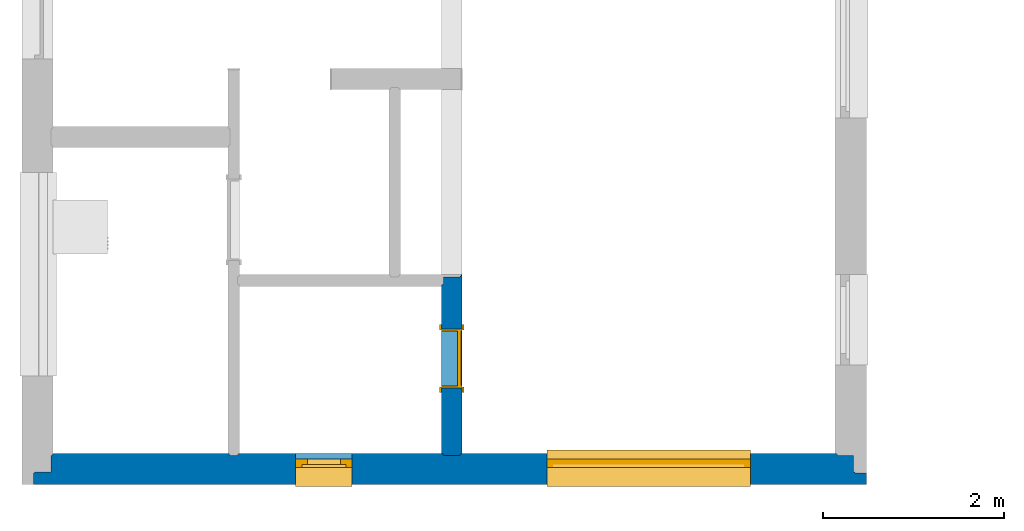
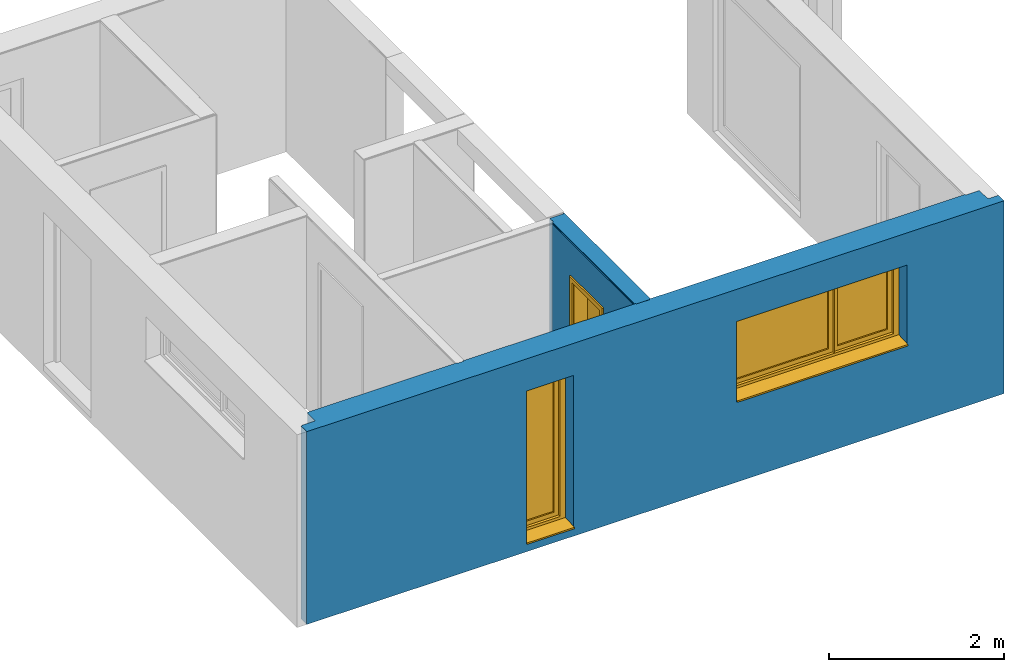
# One storey, part 2 of 6: 2 walls, 2 windows, 1 door, 3 openings.
"""IFC2X3 building model written with IfcOpenShell, lengths in millimetres."""

from ifc_helpers import new_model, entity, si_unit, converted_unit, derived_unit, money_unit, direction, frame, origin_with_axes, place, context, subcontext, project, spatial, open_shell, faceted_brep, surface_model, material, material_list, type_object, element, fill, save


model = new_model("IFC2X3")

# Units and contexts
model_context = context("Model", 3, precision=0.01, world=origin_with_axes(), true_north=direction((0.0, 1.0)))
body_context = subcontext(model_context, "Body", "Model", "MODEL_VIEW")
ifc_project = project(units=[si_unit("LENGTHUNIT", "METRE", prefix="MILLI"), si_unit("AREAUNIT", "SQUARE_METRE"), si_unit("VOLUMEUNIT", "CUBIC_METRE"), converted_unit("PLANEANGLEUNIT", "DEGREE", entity("IfcPlaneAngleMeasure", 0.0174532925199), si_unit("PLANEANGLEUNIT", "RADIAN"), dimensions=[0, 0, 0, 0, 0, 0, 0]), si_unit("SOLIDANGLEUNIT", "STERADIAN"), money_unit("USD"), converted_unit("TIMEUNIT", "Year", entity("IfcTimeMeasure", 31556926.0), si_unit("TIMEUNIT", "SECOND"), dimensions=[0, 0, 1, 0, 0, 0, 0]), si_unit("MASSUNIT", "GRAM", prefix="KILO"), si_unit("THERMODYNAMICTEMPERATUREUNIT", "DEGREE_CELSIUS"), si_unit("LUMINOUSINTENSITYUNIT", "LUMEN"), si_unit("ENERGYUNIT", "JOULE", prefix="MEGA"), derived_unit("THERMALCONDUCTANCEUNIT", [(si_unit("POWERUNIT", "WATT"), 1), (si_unit("LENGTHUNIT", "METRE"), -1), (si_unit("THERMODYNAMICTEMPERATUREUNIT", "KELVIN"), -1)]), derived_unit("SPECIFICHEATCAPACITYUNIT", [(si_unit("ENERGYUNIT", "JOULE"), 1), (si_unit("MASSUNIT", "GRAM", prefix="KILO"), -1), (si_unit("THERMODYNAMICTEMPERATUREUNIT", "KELVIN"), -1)]), derived_unit("MASSDENSITYUNIT", [(si_unit("MASSUNIT", "GRAM", prefix="KILO"), 1), (si_unit("VOLUMEUNIT", "CUBIC_METRE"), -1)])], contexts=[model_context])

# Site, building, storey
site_placement = place(None, origin_with_axes())
site = spatial("IfcSite", under=ifc_project, at=site_placement, Name="Lokalizacja", CompositionType="ELEMENT")
building_placement = place(site_placement, origin_with_axes())
building = spatial("IfcBuilding", under=site, at=building_placement, Name="Budynek", CompositionType="ELEMENT")
storey_placement = place(building_placement, origin_with_axes())
storey = spatial("IfcBuildingStorey", under=building, at=storey_placement, Name="EG", CompositionType="ELEMENT", Elevation=0.0)

# Wall, openings, windows
ifc_material_1 = material(Name="Płyta GK")
ifc_material_2 = material(Name="Płyta OSB")
ifc_material_3 = material(Name="Drewno konstrukcyjne")
ifc_material_4 = material(Name="Płyty styropianowe miękkie")
ifc_material_list_1 = material_list([ifc_material_1, ifc_material_2, ifc_material_3, ifc_material_2, ifc_material_4])
wall_type_1 = type_object("IfcWallType", Name="002- _dan_SZ_345 345", PredefinedType="NOTDEFINED")
wall_1_placement = place(storey_placement, frame((0.0, -7929.99990487, -160.0), z_axis=(0.0, 0.0, 1.0), x_axis=(1.0, 0.0, 0.0)))
wall_1 = element("IfcWall", 1, at=wall_1_placement, inside=storey, type_object=wall_type_1, material=ifc_material_list_1, Name="SZ1", context=body_context, shape_type="Brep", body=[
    faceted_brep([(4507.00004534, 0.0, 2678.0), (8653.0, 0.0, 2678.0), (8653.0, 0.0, 0.0), (4507.00004534, 0.0, 0.0), (8653.0, -13.0, 2678.0), (4507.00004534, -13.0, 2678.0), (8653.0, -13.0, 0.0), (4507.00004534, -13.0, 0.0)], [[[0, 1, 2, 3]], [[4, 1, 0, 5]], [[1, 4, 6, 2]], [[2, 6, 7, 3]], [[5, 0, 3, 7]], [[4, 5, 7, 6]]]),
    faceted_brep([(2047.0, 0.0, 2678.0), (4303.00004534, 0.0, 2678.0), (4303.00004534, 0.0, 0.0), (2047.0, 0.0, 0.0), (4303.00004534, -13.0, 2678.0), (2047.0, -13.0, 2678.0), (4303.00004534, -13.0, 0.0), (2047.0, -13.0, 0.0)], [[[0, 1, 2, 3]], [[4, 1, 0, 5]], [[1, 4, 6, 2]], [[2, 6, 7, 3]], [[5, 0, 3, 7]], [[4, 5, 7, 6]]]),
    faceted_brep([(0.0, 0.0, 2678.0), (1943.0, 0.0, 2678.0), (1943.0, 0.0, 0.0), (0.0, 0.0, 0.0), (1943.0, -13.0, 2678.0), (0.0, -13.0, 2678.0), (1943.0, -13.0, 0.0), (0.0, -13.0, 0.0)], [[[0, 1, 2, 3]], [[4, 1, 0, 5]], [[1, 4, 6, 2]], [[2, 6, 7, 3]], [[5, 0, 3, 7]], [[4, 5, 7, 6]]]),
    faceted_brep([(8665.0, -25.0, 0.0), (4495.00004534, -25.0, 0.0), (4495.00004534, -13.0, 0.0), (8665.0, -13.0, 0.0), (8665.0, -25.0, 2690.0), (4495.00004534, -25.0, 2690.0), (4495.00004534, -13.0, 2690.0), (8665.0, -13.0, 2690.0)], [[[0, 1, 2, 3]], [[4, 5, 1, 0]], [[2, 1, 5, 6]], [[3, 2, 6, 7]], [[3, 7, 4, 0]], [[7, 6, 5, 4]]]),
    faceted_brep([(4315.00004534, -25.0, 0.0), (2035.0, -25.0, 0.0), (2035.0, -13.0, 0.0), (4315.00004534, -13.0, 0.0), (4315.00004534, -25.0, 2690.0), (2035.0, -25.0, 2690.0), (2035.0, -13.0, 2690.0), (4315.00004534, -13.0, 2690.0)], [[[0, 1, 2, 3]], [[4, 5, 1, 0]], [[2, 1, 5, 6]], [[3, 2, 6, 7]], [[3, 7, 4, 0]], [[7, 6, 5, 4]]]),
    faceted_brep([(1955.0, -25.0, 0.0), (-13.0, -25.0, 0.0), (-13.0, -13.0, 0.0), (1955.0, -13.0, 0.0), (1955.0, -25.0, 2690.0), (-13.0, -25.0, 2690.0), (-13.0, -13.0, 2690.0), (1955.0, -13.0, 2690.0)], [[[0, 1, 2, 3]], [[4, 5, 1, 0]], [[2, 1, 5, 6]], [[3, 2, 6, 7]], [[3, 7, 4, 0]], [[7, 6, 5, 4]]]),
    faceted_brep([(8845.0, -205.0, 0.0), (-25.0, -205.0, 0.0), (-25.0, -25.0, 0.0), (8845.0, -25.0, 0.0), (8845.0, -205.0, 2690.0), (-25.0, -205.0, 2690.0), (-25.0, -25.0, 2690.0), (8845.0, -25.0, 2690.0)], [[[0, 1, 2, 3]], [[4, 5, 1, 0]], [[2, 1, 5, 6]], [[3, 2, 6, 7]], [[3, 7, 4, 0]], [[7, 6, 5, 4]]]),
    faceted_brep([(8857.0, -217.0, 0.0), (-205.0, -217.0, 0.0), (-205.0, -205.0, 0.0), (8857.0, -205.0, 0.0), (8857.0, -217.0, 2690.0), (-205.0, -217.0, 2690.0), (-205.0, -205.0, 2690.0), (8857.0, -205.0, 2690.0)], [[[0, 1, 2, 3]], [[4, 5, 1, 0]], [[2, 1, 5, 6]], [[3, 2, 6, 7]], [[3, 7, 4, 0]], [[7, 6, 5, 4]]]),
    faceted_brep([(8985.0, -345.0, 0.0), (-217.0, -345.0, 0.0), (-217.0, -217.0, 0.0), (8985.0, -217.0, 0.0), (8985.0, -345.0, 2690.0), (-217.0, -345.0, 2690.0), (-217.0, -217.0, 2690.0), (8985.0, -217.0, 2690.0)], [[[0, 1, 2, 3]], [[4, 5, 1, 0]], [[2, 1, 5, 6]], [[3, 2, 6, 7]], [[3, 7, 4, 0]], [[7, 6, 5, 4]]]),
])
opening_1_placement = place(wall_1_placement, frame((6580.0, 0.0, 1117.0), z_axis=(0.0, 0.0, 1.0), x_axis=(1.0, 0.0, 0.0)))
opening_1 = element("IfcOpeningElement", 2, at=opening_1_placement, cuts=wall_1, context=body_context, shape_type="Brep", body=[
    faceted_brep([(-1125.0, -157.0, 1125.0), (-1125.0, -157.0, 0.0), (-1125.0, -690.0, 0.0), (-1125.0, -690.0, 1125.0), (1125.0, -157.0, 1125.0), (1125.0, -157.0, 0.0), (1125.0, -690.0, 0.0), (1125.0, -690.0, 1125.0)], [[[0, 1, 2, 3]], [[0, 4, 5, 1]], [[1, 5, 6, 2]], [[3, 2, 6, 7]], [[4, 0, 3, 7]], [[5, 4, 7, 6]]]),
    faceted_brep([(-1125.0, -157.0, 0.0), (-1125.0, -157.0, 1125.0), (-1125.0, 345.0, 1125.0), (-1125.0, 345.0, 0.0), (1125.0, -157.0, 0.0), (1125.0, -157.0, 1125.0), (1125.0, 345.0, 1125.0), (1125.0, 345.0, 0.0)], [[[0, 1, 2, 3]], [[0, 4, 5, 1]], [[1, 5, 6, 2]], [[3, 2, 6, 7]], [[4, 0, 3, 7]], [[5, 4, 7, 6]]]),
])
opening_2_placement = place(wall_1_placement, frame((2992.5, 0.0, 107.0), z_axis=(0.0, 0.0, 1.0), x_axis=(1.0, 0.0, 0.0)))
opening_2 = element("IfcOpeningElement", 3, at=opening_2_placement, cuts=wall_1, context=body_context, shape_type="Brep", body=[
    faceted_brep([(-312.5, -157.0, 2135.0), (-312.5, -157.0, 0.0), (-312.5, -690.0, 0.0), (-312.5, -690.0, 2135.0), (312.5, -157.0, 2135.0), (312.5, -157.0, 0.0), (312.5, -690.0, 0.0), (312.5, -690.0, 2135.0)], [[[0, 1, 2, 3]], [[0, 4, 5, 1]], [[1, 5, 6, 2]], [[3, 2, 6, 7]], [[4, 0, 3, 7]], [[5, 4, 7, 6]]]),
    faceted_brep([(-312.5, -157.0, 0.0), (-312.5, -157.0, 2135.0), (-312.5, 345.0, 2135.0), (-312.5, 345.0, 0.0), (312.5, -157.0, 0.0), (312.5, -157.0, 2135.0), (312.5, 345.0, 2135.0), (312.5, 345.0, 0.0)], [[[0, 1, 2, 3]], [[0, 4, 5, 1]], [[1, 5, 6, 2]], [[3, 2, 6, 7]], [[4, 0, 3, 7]], [[5, 4, 7, 6]]]),
])
window_style_1 = type_object("IfcWindowStyle", Name="Okno podwójne 24", ConstructionType="NOTDEFINED", OperationType="DOUBLE_PANEL_VERTICAL", ParameterTakesPrecedence=False, Sizeable=False)
window_1_placement = place(opening_1_placement, frame((-1115.0, 0.0, 0.0), z_axis=(0.0, 0.0, 1.0), x_axis=(1.0, 0.0, 0.0)))
window_1 = element("IfcWindow", 4, at=window_1_placement, inside=storey, type_object=window_style_1, OverallHeight=1125.0, OverallWidth=2250.0, context=body_context, shape_type="SurfaceModel", body=[
    surface_model("IfcShellBasedSurfaceModel", [(2240.0, -158.0, 50.0), (-10.0, -158.0, 50.0), (-10.0, -158.0, 40.0), (2240.0, -158.0, 40.0), (-10.0, -365.0, 28.9361702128), (2240.0, -365.0, 28.9361702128), (-10.0, -365.0, 8.93617021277), (2240.0, -365.0, 8.93617021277), (-10.0, -355.0, 18.9361702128), (2240.0, -355.0, 18.9361702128)], [open_shell([[[0, 1, 2, 3]], [[3, 2, 4, 5]], [[5, 4, 6, 7]], [[7, 6, 8, 9]]])]),
    faceted_brep([(-10.0, -61.0, 0.0), (-10.0, -61.0, 30.0), (-10.0, 0.0, 30.0), (-10.0, 0.0, 0.0), (2240.0, -61.0, 0.0), (2240.0, -61.0, 30.0), (2240.0, 0.0, 30.0), (2240.0, 40.0, 30.0), (-10.0, 40.0, 30.0), (-10.0, 40.0, 0.0), (2240.0, 40.0, 0.0), (2240.0, 0.0, 0.0)], [[[0, 1, 2, 3]], [[4, 5, 1, 0]], [[1, 5, 6, 7, 8, 2]], [[3, 2, 8, 9]], [[0, 3, 9, 10, 11, 4]], [[11, 6, 5, 4]], [[10, 7, 6, 11]], [[9, 8, 7, 10]]]),
    faceted_brep([(2170.1, -61.0, 1055.0), (2170.1, -121.0, 1055.0), (2170.0, -121.0, 1055.0), (2170.0, -157.0, 1055.0), (2240.0, -157.0, 1055.0), (2240.0, -61.0, 1055.0), (2170.1, -61.0, 77.0), (2170.1, -121.0, 77.0), (2170.0, -121.0, 77.0), (2170.0, -157.0, 77.0), (2240.0, -157.0, 77.0), (2240.0, -61.0, 77.0)], [[[0, 1, 2, 3, 4, 5]], [[1, 0, 6, 7]], [[8, 2, 1, 7]], [[2, 8, 9, 3]], [[4, 3, 9, 10]], [[5, 4, 10, 11]], [[6, 0, 5, 11]], [[7, 6, 11, 10, 9, 8]]]),
    faceted_brep([(60.0, -121.0, 1055.0), (59.9, -121.0, 1055.0), (59.9, -61.0, 1055.0), (-10.0, -61.0, 1055.0), (-10.0, -157.0, 1055.0), (60.0, -157.0, 1055.0), (60.0, -121.0, 77.0), (59.9, -121.0, 77.0), (59.9, -61.0, 77.0), (-10.0, -61.0, 77.0), (-10.0, -157.0, 77.0), (60.0, -157.0, 77.0)], [[[0, 1, 2, 3, 4, 5]], [[1, 0, 6, 7]], [[8, 2, 1, 7]], [[2, 8, 9, 3]], [[9, 10, 4, 3]], [[10, 11, 5, 4]], [[6, 0, 5, 11]], [[7, 6, 11, 10, 9, 8]]]),
    faceted_brep([(1390.1, -121.0, 1055.0), (1389.9, -121.0, 1055.0), (1389.9, -157.0, 1055.0), (1390.1, -157.0, 1055.0), (1390.1, -121.0, 77.0), (1389.9, -121.0, 77.0), (1389.9, -157.0, 77.0), (1390.1, -157.0, 77.0)], [[[0, 1, 2, 3]], [[1, 0, 4, 5]], [[1, 5, 6, 2]], [[6, 7, 3, 2]], [[4, 0, 3, 7]], [[4, 7, 6, 5]]]),
    faceted_brep([(1390.1, -121.0, 77.0), (1389.9, -121.0, 77.0), (1389.9, -157.0, 77.0), (1390.1, -157.0, 77.0), (2170.0, -121.0, 77.0), (2170.1, -121.0, 77.0), (2170.1, -121.0, 76.9), (59.9, -121.0, 76.9), (59.9, -121.0, 77.0), (60.0, -121.0, 77.0), (60.0, -157.0, 77.0), (2240.0, -157.0, 77.0), (2170.0, -157.0, 77.0), (-10.0, -157.0, 77.0), (-10.0, -157.0, 0.0), (2240.0, -157.0, 0.0), (2240.0, -61.0, 77.0), (2170.1, -61.0, 77.0), (2170.1, -61.0, 76.9), (59.9, -61.0, 76.9), (59.9, -61.0, 77.0), (-10.0, -61.0, 77.0), (-10.0, -61.0, 0.0), (2240.0, -61.0, 0.0)], [[[0, 1, 2, 3]], [[1, 0, 4, 5, 6, 7, 8, 9]], [[1, 9, 10, 2]], [[11, 12, 3, 2, 10, 13, 14, 15]], [[4, 0, 3, 12]], [[5, 4, 12, 11, 16, 17]], [[5, 17, 18, 6]], [[6, 18, 19, 7]], [[19, 20, 8, 7]], [[9, 8, 20, 21, 13, 10]], [[22, 14, 13, 21]], [[23, 15, 14, 22]], [[16, 11, 15, 23]], [[18, 17, 16, 23, 22, 21, 20, 19]]]),
    faceted_brep([(2170.1, -61.0, 1055.0), (2170.1, -61.0, 1055.1), (59.9, -61.0, 1055.1), (59.9, -61.0, 1055.0), (-10.0, -61.0, 1055.0), (-10.0, -61.0, 1125.0), (2240.0, -61.0, 1125.0), (2240.0, -61.0, 1055.0), (2170.1, -121.0, 1055.0), (2170.1, -121.0, 1055.1), (59.9, -121.0, 1055.1), (59.9, -121.0, 1055.0), (60.0, -121.0, 1055.0), (60.0, -157.0, 1055.0), (-10.0, -157.0, 1055.0), (-10.0, -157.0, 1125.0), (2240.0, -157.0, 1125.0), (2240.0, -157.0, 1055.0), (2170.0, -157.0, 1055.0), (2170.0, -121.0, 1055.0), (1390.1, -121.0, 1055.0), (1389.9, -121.0, 1055.0), (1389.9, -157.0, 1055.0), (1390.1, -157.0, 1055.0)], [[[0, 1, 2, 3, 4, 5, 6, 7]], [[1, 0, 8, 9]], [[2, 1, 9, 10]], [[3, 2, 10, 11]], [[11, 12, 13, 14, 4, 3]], [[4, 14, 15, 5]], [[5, 15, 16, 6]], [[6, 16, 17, 7]], [[8, 0, 7, 17, 18, 19]], [[9, 8, 19, 20, 21, 12, 11, 10]], [[12, 21, 22, 13]], [[22, 23, 18, 17, 16, 15, 14, 13]], [[20, 19, 18, 23]], [[20, 23, 22, 21]]]),
    faceted_brep([(2110.1, -121.0, 995.1), (2170.1, -121.0, 995.1), (2170.1, -61.0, 995.1), (2110.1, -61.0, 995.1), (2110.1, -121.0, 136.9), (2170.1, -121.0, 136.9), (2170.1, -61.0, 136.9), (2110.1, -61.0, 136.9)], [[[0, 1, 2, 3]], [[0, 4, 5, 1]], [[1, 5, 6, 2]], [[3, 2, 6, 7]], [[4, 0, 3, 7]], [[5, 4, 7, 6]]]),
    faceted_brep([(1450.0, -121.0, 136.9), (1390.0, -121.0, 136.9), (1390.0, -61.0, 136.9), (1450.0, -61.0, 136.9), (1450.0, -121.0, 995.1), (1390.0, -121.0, 995.1), (1390.0, -61.0, 995.1), (1450.0, -61.0, 995.1)], [[[0, 1, 2, 3]], [[0, 4, 5, 1]], [[1, 5, 6, 2]], [[3, 2, 6, 7]], [[4, 0, 3, 7]], [[5, 4, 7, 6]]]),
    faceted_brep([(1390.0, -121.0, 76.9), (1390.0, -121.0, 136.9), (1390.0, -61.0, 136.9), (1390.0, -61.0, 76.9), (2170.1, -121.0, 76.9), (2170.1, -121.0, 136.9), (2110.1, -121.0, 136.9), (1450.0, -121.0, 136.9), (1450.0, -61.0, 136.9), (2110.1, -61.0, 136.9), (2170.1, -61.0, 136.9), (2170.1, -61.0, 76.9)], [[[0, 1, 2, 3]], [[0, 4, 5, 6, 7, 1]], [[1, 7, 8, 2]], [[3, 2, 8, 9, 10, 11]], [[4, 0, 3, 11]], [[5, 4, 11, 10]], [[6, 5, 10, 9]], [[7, 6, 9, 8]]]),
    faceted_brep([(2170.1, -121.0, 1055.1), (2170.1, -121.0, 995.1), (2170.1, -61.0, 995.1), (2170.1, -61.0, 1055.1), (1390.0, -121.0, 1055.1), (1390.0, -121.0, 995.1), (1450.0, -121.0, 995.1), (2110.1, -121.0, 995.1), (2110.1, -61.0, 995.1), (1450.0, -61.0, 995.1), (1390.0, -61.0, 995.1), (1390.0, -61.0, 1055.1)], [[[0, 1, 2, 3]], [[0, 4, 5, 6, 7, 1]], [[1, 7, 8, 2]], [[3, 2, 8, 9, 10, 11]], [[4, 0, 3, 11]], [[5, 4, 11, 10]], [[6, 5, 10, 9]], [[7, 6, 9, 8]]]),
    surface_model("IfcShellBasedSurfaceModel", [(2110.1, -101.0, 136.9), (2110.1, -101.0, 995.1), (1450.0, -101.0, 995.1), (1450.0, -101.0, 136.9)], [open_shell([[[0, 1, 2, 3]]])]),
    surface_model("IfcShellBasedSurfaceModel", [(2110.1, -81.0, 136.9), (1450.0, -81.0, 136.9), (1450.0, -81.0, 995.1), (2110.1, -81.0, 995.1)], [open_shell([[[0, 1, 2, 3]]])]),
    faceted_brep([(1330.0, -121.0, 995.1), (1390.0, -121.0, 995.1), (1390.0, -61.0, 995.1), (1330.0, -61.0, 995.1), (1330.0, -121.0, 136.9), (1390.0, -121.0, 136.9), (1390.0, -61.0, 136.9), (1330.0, -61.0, 136.9)], [[[0, 1, 2, 3]], [[0, 4, 5, 1]], [[1, 5, 6, 2]], [[3, 2, 6, 7]], [[4, 0, 3, 7]], [[5, 4, 7, 6]]]),
    faceted_brep([(119.9, -121.0, 136.9), (59.9, -121.0, 136.9), (59.9, -61.0, 136.9), (119.9, -61.0, 136.9), (119.9, -121.0, 995.1), (59.9, -121.0, 995.1), (59.9, -61.0, 995.1), (119.9, -61.0, 995.1)], [[[0, 1, 2, 3]], [[0, 4, 5, 1]], [[1, 5, 6, 2]], [[3, 2, 6, 7]], [[4, 0, 3, 7]], [[5, 4, 7, 6]]]),
    faceted_brep([(59.9, -121.0, 76.9), (59.9, -121.0, 136.9), (59.9, -61.0, 136.9), (59.9, -61.0, 76.9), (1390.0, -121.0, 76.9), (1390.0, -121.0, 136.9), (1330.0, -121.0, 136.9), (119.9, -121.0, 136.9), (119.9, -61.0, 136.9), (1330.0, -61.0, 136.9), (1390.0, -61.0, 136.9), (1390.0, -61.0, 76.9)], [[[0, 1, 2, 3]], [[0, 4, 5, 6, 7, 1]], [[1, 7, 8, 2]], [[3, 2, 8, 9, 10, 11]], [[4, 0, 3, 11]], [[5, 4, 11, 10]], [[6, 5, 10, 9]], [[7, 6, 9, 8]]]),
    faceted_brep([(1390.0, -121.0, 1055.1), (1390.0, -121.0, 995.1), (1390.0, -61.0, 995.1), (1390.0, -61.0, 1055.1), (59.9, -121.0, 1055.1), (59.9, -121.0, 995.1), (119.9, -121.0, 995.1), (1330.0, -121.0, 995.1), (1330.0, -61.0, 995.1), (119.9, -61.0, 995.1), (59.9, -61.0, 995.1), (59.9, -61.0, 1055.1)], [[[0, 1, 2, 3]], [[0, 4, 5, 6, 7, 1]], [[1, 7, 8, 2]], [[3, 2, 8, 9, 10, 11]], [[4, 0, 3, 11]], [[5, 4, 11, 10]], [[6, 5, 10, 9]], [[7, 6, 9, 8]]]),
    surface_model("IfcShellBasedSurfaceModel", [(1330.0, -101.0, 136.9), (1330.0, -101.0, 995.1), (119.9, -101.0, 995.1), (119.9, -101.0, 136.9)], [open_shell([[[0, 1, 2, 3]]])]),
    surface_model("IfcShellBasedSurfaceModel", [(1330.0, -81.0, 136.9), (119.9, -81.0, 136.9), (119.9, -81.0, 995.1), (1330.0, -81.0, 995.1)], [open_shell([[[0, 1, 2, 3]]])]),
])
fill(opening_1, window_1)
window_style_2 = type_object("IfcWindowStyle", Name="Okno 24", ConstructionType="NOTDEFINED", OperationType="SINGLE_PANEL", ParameterTakesPrecedence=False, Sizeable=False)
window_2_placement = place(opening_2_placement, frame((-302.5, 0.0, 0.0), z_axis=(0.0, 0.0, 1.0), x_axis=(1.0, 0.0, 0.0)))
window_2 = element("IfcWindow", 5, at=window_2_placement, inside=storey, type_object=window_style_2, OverallHeight=2135.0, OverallWidth=625.0, context=body_context, shape_type="SurfaceModel", body=[
    surface_model("IfcShellBasedSurfaceModel", [(615.0, -158.0, 50.0), (-10.0, -158.0, 50.0), (-10.0, -158.0, 40.0), (615.0, -158.0, 40.0), (-10.0, -365.0, 28.9361702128), (615.0, -365.0, 28.9361702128), (-10.0, -365.0, 8.93617021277), (615.0, -365.0, 8.93617021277), (-10.0, -355.0, 18.9361702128), (615.0, -355.0, 18.9361702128)], [open_shell([[[0, 1, 2, 3]], [[3, 2, 4, 5]], [[5, 4, 6, 7]], [[7, 6, 8, 9]]])]),
    faceted_brep([(545.1, -61.0, 2065.0), (545.1, -121.0, 2065.0), (545.0, -121.0, 2065.0), (545.0, -157.0, 2065.0), (615.0, -157.0, 2065.0), (615.0, -61.0, 2065.0), (545.1, -61.0, 77.0), (545.1, -121.0, 77.0), (545.0, -121.0, 77.0), (545.0, -157.0, 77.0), (615.0, -157.0, 77.0), (615.0, -61.0, 77.0)], [[[0, 1, 2, 3, 4, 5]], [[1, 0, 6, 7]], [[8, 2, 1, 7]], [[2, 8, 9, 3]], [[4, 3, 9, 10]], [[5, 4, 10, 11]], [[6, 0, 5, 11]], [[7, 6, 11, 10, 9, 8]]]),
    faceted_brep([(60.0, -121.0, 2065.0), (59.9, -121.0, 2065.0), (59.9, -61.0, 2065.0), (-10.0, -61.0, 2065.0), (-10.0, -157.0, 2065.0), (60.0, -157.0, 2065.0), (60.0, -121.0, 77.0), (59.9, -121.0, 77.0), (59.9, -61.0, 77.0), (-10.0, -61.0, 77.0), (-10.0, -157.0, 77.0), (60.0, -157.0, 77.0)], [[[0, 1, 2, 3, 4, 5]], [[1, 0, 6, 7]], [[8, 2, 1, 7]], [[2, 8, 9, 3]], [[9, 10, 4, 3]], [[10, 11, 5, 4]], [[6, 0, 5, 11]], [[7, 6, 11, 10, 9, 8]]]),
    faceted_brep([(60.0, -121.0, 77.0), (59.9, -121.0, 77.0), (59.9, -61.0, 77.0), (-10.0, -61.0, 77.0), (-10.0, -157.0, 77.0), (60.0, -157.0, 77.0), (545.0, -121.0, 77.0), (545.1, -121.0, 77.0), (545.1, -121.0, 76.9), (59.9, -121.0, 76.9), (59.9, -61.0, 76.9), (545.1, -61.0, 76.9), (545.1, -61.0, 77.0), (615.0, -61.0, 77.0), (615.0, -61.0, 0.0), (-10.0, -61.0, 0.0), (-10.0, -157.0, 0.0), (615.0, -157.0, 77.0), (545.0, -157.0, 77.0), (615.0, -157.0, 0.0)], [[[0, 1, 2, 3, 4, 5]], [[1, 0, 6, 7, 8, 9]], [[10, 2, 1, 9]], [[11, 12, 13, 14, 15, 3, 2, 10]], [[15, 16, 4, 3]], [[17, 18, 5, 4, 16, 19]], [[6, 0, 5, 18]], [[7, 6, 18, 17, 13, 12]], [[7, 12, 11, 8]], [[11, 10, 9, 8]], [[13, 17, 19, 14]], [[14, 19, 16, 15]]]),
    faceted_brep([(545.1, -61.0, 2065.0), (545.1, -61.0, 2065.1), (59.9, -61.0, 2065.1), (59.9, -61.0, 2065.0), (-10.0, -61.0, 2065.0), (-10.0, -61.0, 2135.0), (615.0, -61.0, 2135.0), (615.0, -61.0, 2065.0), (545.1, -121.0, 2065.0), (545.1, -121.0, 2065.1), (59.9, -121.0, 2065.1), (59.9, -121.0, 2065.0), (60.0, -121.0, 2065.0), (60.0, -157.0, 2065.0), (-10.0, -157.0, 2065.0), (-10.0, -157.0, 2135.0), (615.0, -157.0, 2135.0), (615.0, -157.0, 2065.0), (545.0, -157.0, 2065.0), (545.0, -121.0, 2065.0)], [[[0, 1, 2, 3, 4, 5, 6, 7]], [[1, 0, 8, 9]], [[2, 1, 9, 10]], [[3, 2, 10, 11]], [[11, 12, 13, 14, 4, 3]], [[4, 14, 15, 5]], [[5, 15, 16, 6]], [[6, 16, 17, 7]], [[8, 0, 7, 17, 18, 19]], [[12, 11, 10, 9, 8, 19]], [[12, 19, 18, 13]], [[14, 13, 18, 17, 16, 15]]]),
    faceted_brep([(485.1, -121.0, 2005.1), (545.1, -121.0, 2005.1), (545.1, -61.0, 2005.1), (485.1, -61.0, 2005.1), (485.1, -121.0, 136.9), (545.1, -121.0, 136.9), (545.1, -61.0, 136.9), (485.1, -61.0, 136.9)], [[[0, 1, 2, 3]], [[0, 4, 5, 1]], [[1, 5, 6, 2]], [[3, 2, 6, 7]], [[4, 0, 3, 7]], [[5, 4, 7, 6]]]),
    faceted_brep([(119.9, -121.0, 136.9), (59.9, -121.0, 136.9), (59.9, -61.0, 136.9), (119.9, -61.0, 136.9), (119.9, -121.0, 2005.1), (59.9, -121.0, 2005.1), (59.9, -61.0, 2005.1), (119.9, -61.0, 2005.1)], [[[0, 1, 2, 3]], [[0, 4, 5, 1]], [[1, 5, 6, 2]], [[3, 2, 6, 7]], [[4, 0, 3, 7]], [[5, 4, 7, 6]]]),
    faceted_brep([(59.9, -121.0, 76.9), (59.9, -121.0, 136.9), (59.9, -61.0, 136.9), (59.9, -61.0, 76.9), (545.1, -121.0, 76.9), (545.1, -121.0, 136.9), (485.1, -121.0, 136.9), (119.9, -121.0, 136.9), (119.9, -61.0, 136.9), (485.1, -61.0, 136.9), (545.1, -61.0, 136.9), (545.1, -61.0, 76.9)], [[[0, 1, 2, 3]], [[0, 4, 5, 6, 7, 1]], [[1, 7, 8, 2]], [[3, 2, 8, 9, 10, 11]], [[4, 0, 3, 11]], [[5, 4, 11, 10]], [[6, 5, 10, 9]], [[7, 6, 9, 8]]]),
    faceted_brep([(545.1, -121.0, 2065.1), (545.1, -121.0, 2005.1), (545.1, -61.0, 2005.1), (545.1, -61.0, 2065.1), (59.9, -121.0, 2065.1), (59.9, -121.0, 2005.1), (119.9, -121.0, 2005.1), (485.1, -121.0, 2005.1), (485.1, -61.0, 2005.1), (119.9, -61.0, 2005.1), (59.9, -61.0, 2005.1), (59.9, -61.0, 2065.1)], [[[0, 1, 2, 3]], [[0, 4, 5, 6, 7, 1]], [[1, 7, 8, 2]], [[3, 2, 8, 9, 10, 11]], [[4, 0, 3, 11]], [[5, 4, 11, 10]], [[6, 5, 10, 9]], [[7, 6, 9, 8]]]),
    surface_model("IfcShellBasedSurfaceModel", [(485.1, -101.0, 136.9), (485.1, -101.0, 2005.1), (119.9, -101.0, 2005.1), (119.9, -101.0, 136.9)], [open_shell([[[0, 1, 2, 3]]])]),
    surface_model("IfcShellBasedSurfaceModel", [(485.1, -81.0, 136.9), (119.9, -81.0, 136.9), (119.9, -81.0, 2005.1), (485.1, -81.0, 2005.1)], [open_shell([[[0, 1, 2, 3]]])]),
])
fill(opening_2, window_2)

# Wall, opening, door
ifc_material_list_2 = material_list([ifc_material_1, ifc_material_2, ifc_material_3, ifc_material_2, ifc_material_1])
wall_type_2 = type_object("IfcWallType", Name="025- _dan_SW_230 230", PredefinedType="NOTDEFINED")
wall_2_placement = place(storey_placement, frame((4290.00004534, -6084.99986669, -160.0), z_axis=(0.0, 0.0, 1.0), x_axis=(0.0, -1.0, 0.0)))
wall_2 = element("IfcWall", 6, at=wall_2_placement, inside=storey, type_object=wall_type_2, material=ifc_material_list_2, Name="SW4", context=body_context, shape_type="Brep", body=[
    faceted_brep([(-130.0, 217.0, 0.0), (-130.0, 217.0, 2678.0), (-130.0, 230.0, 2678.0), (-130.0, 230.0, 0.0), (1845.00003818, 217.0, 0.0), (1845.00003818, 217.0, 2678.0), (1845.00003818, 230.0, 2678.0), (1845.00003818, 230.0, 0.0)], [[[0, 1, 2, 3]], [[4, 5, 1, 0]], [[5, 6, 2, 1]], [[3, 2, 6, 7]], [[3, 7, 4, 0]], [[7, 6, 5, 4]]]),
    faceted_brep([(1858.00003818, 205.0, 0.0), (-117.0, 205.0, 0.0), (-117.0, 217.0, 0.0), (1858.00003818, 217.0, 0.0), (1858.00003818, 205.0, 2690.0), (-117.0, 205.0, 2690.0), (-117.0, 217.0, 2690.0), (1858.00003818, 217.0, 2690.0)], [[[0, 1, 2, 3]], [[4, 5, 1, 0]], [[2, 1, 5, 6]], [[3, 2, 6, 7]], [[3, 7, 4, 0]], [[7, 6, 5, 4]]]),
    faceted_brep([(1870.00003818, 25.0, 0.0), (-105.0, 25.0, 0.0), (-105.0, 205.0, 0.0), (1870.00003818, 205.0, 0.0), (1870.00003818, 25.0, 2690.0), (-105.0, 25.0, 2690.0), (-105.0, 205.0, 2690.0), (1870.00003818, 205.0, 2690.0)], [[[0, 1, 2, 3]], [[4, 5, 1, 0]], [[2, 1, 5, 6]], [[3, 2, 6, 7]], [[3, 7, 4, 0]], [[7, 6, 5, 4]]]),
    faceted_brep([(1858.00003818, 13.0, 0.0), (-25.0, 13.0, 0.0), (-25.0, 25.0, 0.0), (1858.00003818, 25.0, 0.0), (1858.00003818, 13.0, 2690.0), (-25.0, 13.0, 2690.0), (-25.0, 25.0, 2690.0), (1858.00003818, 25.0, 2690.0)], [[[0, 1, 2, 3]], [[4, 5, 1, 0]], [[2, 1, 5, 6]], [[3, 2, 6, 7]], [[3, 7, 4, 0]], [[7, 6, 5, 4]]]),
    faceted_brep([(-13.0, 0.0, 2678.0), (-13.0, 13.0, 2678.0), (-13.0, 13.0, 0.0), (-13.0, 0.0, 0.0), (1845.00003818, 13.0, 2678.0), (1845.00003818, 0.0, 2678.0), (1845.00003818, 13.0, 0.0), (1845.00003818, 0.0, 0.0)], [[[0, 1, 2, 3]], [[4, 1, 0, 5]], [[1, 4, 6, 2]], [[6, 7, 3, 2]], [[5, 0, 3, 7]], [[4, 5, 7, 6]]]),
])
opening_3_placement = place(wall_2_placement, frame((795.000070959, 0.0, 160.0), z_axis=(0.0, 0.0, 1.0), x_axis=(1.0, 0.0, 0.0)))
opening_3 = element("IfcOpeningElement", 7, at=opening_3_placement, cuts=wall_2, Name="D4", context=body_context, shape_type="Brep", body=[
    faceted_brep([(325.0, -230.0, 2010.0), (325.0, -230.0, 0.0), (325.0, 217.0, 0.0), (325.0, 217.0, 2010.0), (-325.0, -230.0, 2010.0), (-325.0, -230.0, 0.0), (-325.0, 217.0, 0.0), (-325.0, 217.0, 2010.0)], [[[0, 1, 2, 3]], [[0, 4, 5, 1]], [[1, 5, 6, 2]], [[3, 2, 6, 7]], [[4, 0, 3, 7]], [[5, 4, 7, 6]]]),
    faceted_brep([(325.0, 460.0, 0.0), (325.0, 460.0, 2010.0), (325.0, 217.0, 2010.0), (325.0, 217.0, 0.0), (-325.0, 460.0, 0.0), (-325.0, 460.0, 2010.0), (-325.0, 217.0, 2010.0), (-325.0, 217.0, 0.0)], [[[0, 1, 2, 3]], [[0, 4, 5, 1]], [[1, 5, 6, 2]], [[3, 2, 6, 7]], [[4, 0, 3, 7]], [[5, 4, 7, 6]]]),
    faceted_brep([(375.0, -243.0, 2060.0), (375.0, -243.0, 0.0), (375.0, 0.0, 0.0), (375.0, 0.0, 2060.0), (-375.0, -243.0, 2060.0), (-375.0, -243.0, 0.0), (-375.0, 0.0, 0.0), (-375.0, 0.0, 2060.0)], [[[0, 1, 2, 3]], [[0, 4, 5, 1]], [[1, 5, 6, 2]], [[3, 2, 6, 7]], [[4, 0, 3, 7]], [[5, 4, 7, 6]]]),
    faceted_brep([(375.0, 473.0, 0.0), (375.0, 473.0, 2060.0), (375.0, 230.0, 2060.0), (375.0, 230.0, 0.0), (-375.0, 473.0, 0.0), (-375.0, 473.0, 2060.0), (-375.0, 230.0, 2060.0), (-375.0, 230.0, 0.0)], [[[0, 1, 2, 3]], [[0, 4, 5, 1]], [[1, 5, 6, 2]], [[3, 2, 6, 7]], [[4, 0, 3, 7]], [[5, 4, 7, 6]]]),
])
door_style = type_object("IfcDoorStyle", Name="Drzwi 24", ConstructionType="NOTDEFINED", OperationType="SINGLE_SWING_RIGHT", ParameterTakesPrecedence=False, Sizeable=False)
door_placement = place(opening_3_placement, frame((-325.0, 0.0, 0.0), z_axis=(0.0, 0.0, 1.0), x_axis=(1.0, 0.0, 0.0)))
door = element("IfcDoor", 8, at=door_placement, inside=storey, type_object=door_style, Name="D4", OverallHeight=2010.0, OverallWidth=650.0, context=body_context, shape_type="Brep", body=[
    faceted_brep([(0.0, 77.0, 0.0), (20.0, 77.0, 0.0), (20.0, 0.0, 0.0), (0.0, 0.0, 0.0), (0.0, 77.0, 2010.0), (20.0, 77.0, 1990.0), (20.0, 0.0, 1990.0), (0.0, 0.0, 2010.0)], [[[0, 1, 2, 3]], [[0, 4, 5, 1]], [[1, 5, 6, 2]], [[3, 2, 6, 7]], [[4, 0, 3, 7]], [[5, 4, 7, 6]]]),
    faceted_brep([(650.0, 77.0, 2010.0), (630.0, 77.0, 1990.0), (630.0, 0.0, 1990.0), (650.0, 0.0, 2010.0), (650.0, 77.0, 0.0), (630.0, 77.0, 0.0), (630.0, 0.0, 0.0), (650.0, 0.0, 0.0)], [[[0, 1, 2, 3]], [[0, 4, 5, 1]], [[1, 5, 6, 2]], [[3, 2, 6, 7]], [[4, 0, 3, 7]], [[5, 4, 7, 6]]]),
    faceted_brep([(20.0, 77.0, 1990.0), (630.0, 77.0, 1990.0), (630.0, 0.0, 1990.0), (20.0, 0.0, 1990.0), (0.0, 77.0, 2010.0), (650.0, 77.0, 2010.0), (650.0, 0.0, 2010.0), (0.0, 0.0, 2010.0)], [[[0, 1, 2, 3]], [[0, 4, 5, 1]], [[1, 5, 6, 2]], [[3, 2, 6, 7]], [[4, 0, 3, 7]], [[5, 4, 7, 6]]]),
    faceted_brep([(-50.0, -20.0, 0.0), (-50.0, 0.0, 0.0), (10.0, 0.0, 0.0), (10.0, -20.0, 0.0), (-50.0, -20.0, 2060.0), (-50.0, 0.0, 2060.0), (10.0, 0.0, 2000.0), (10.0, -20.0, 2000.0)], [[[0, 1, 2, 3]], [[4, 5, 1, 0]], [[1, 5, 6, 2]], [[3, 2, 6, 7]], [[0, 3, 7, 4]], [[7, 6, 5, 4]]]),
    faceted_brep([(700.0, -20.0, 2060.0), (700.0, 0.0, 2060.0), (640.0, 0.0, 2000.0), (640.0, -20.0, 2000.0), (700.0, -20.0, 0.0), (700.0, 0.0, 0.0), (640.0, 0.0, 0.0), (640.0, -20.0, 0.0)], [[[0, 1, 2, 3]], [[4, 5, 1, 0]], [[1, 5, 6, 2]], [[3, 2, 6, 7]], [[0, 3, 7, 4]], [[7, 6, 5, 4]]]),
    faceted_brep([(-50.0, -20.0, 2060.0), (-50.0, 0.0, 2060.0), (10.0, 0.0, 2000.0), (10.0, -20.0, 2000.0), (700.0, -20.0, 2060.0), (700.0, 0.0, 2060.0), (640.0, 0.0, 2000.0), (640.0, -20.0, 2000.0)], [[[0, 1, 2, 3]], [[4, 5, 1, 0]], [[1, 5, 6, 2]], [[3, 2, 6, 7]], [[0, 3, 7, 4]], [[7, 6, 5, 4]]]),
    faceted_brep([(0.0, 217.0, 0.0), (0.0, 230.0, 0.0), (25.0, 230.0, 0.0), (25.0, 217.0, 0.0), (0.0, 217.0, 2010.0), (0.0, 230.0, 2010.0), (25.0, 230.0, 1985.0), (25.0, 217.0, 1985.0)], [[[0, 1, 2, 3]], [[4, 5, 1, 0]], [[1, 5, 6, 2]], [[3, 2, 6, 7]], [[0, 3, 7, 4]], [[7, 6, 5, 4]]]),
    faceted_brep([(650.0, 217.0, 2010.0), (650.0, 230.0, 2010.0), (625.0, 230.0, 1985.0), (625.0, 217.0, 1985.0), (650.0, 217.0, 0.0), (650.0, 230.0, 0.0), (625.0, 230.0, 0.0), (625.0, 217.0, 0.0)], [[[0, 1, 2, 3]], [[4, 5, 1, 0]], [[1, 5, 6, 2]], [[3, 2, 6, 7]], [[0, 3, 7, 4]], [[7, 6, 5, 4]]]),
    faceted_brep([(0.0, 217.0, 2010.0), (0.0, 230.0, 2010.0), (25.0, 230.0, 1985.0), (25.0, 217.0, 1985.0), (650.0, 217.0, 2010.0), (650.0, 230.0, 2010.0), (625.0, 230.0, 1985.0), (625.0, 217.0, 1985.0)], [[[0, 1, 2, 3]], [[4, 5, 1, 0]], [[1, 5, 6, 2]], [[3, 2, 6, 7]], [[0, 3, 7, 4]], [[7, 6, 5, 4]]]),
    faceted_brep([(-50.0, 250.0, 0.0), (10.0, 250.0, 0.0), (10.0, 230.0, 0.0), (-50.0, 230.0, 0.0), (-50.0, 250.0, 2060.0), (10.0, 250.0, 2000.0), (10.0, 230.0, 2000.0), (-50.0, 230.0, 2060.0)], [[[0, 1, 2, 3]], [[0, 4, 5, 1]], [[1, 5, 6, 2]], [[3, 2, 6, 7]], [[4, 0, 3, 7]], [[5, 4, 7, 6]]]),
    faceted_brep([(700.0, 250.0, 2060.0), (640.0, 250.0, 2000.0), (640.0, 230.0, 2000.0), (700.0, 230.0, 2060.0), (700.0, 250.0, 0.0), (640.0, 250.0, 0.0), (640.0, 230.0, 0.0), (700.0, 230.0, 0.0)], [[[0, 1, 2, 3]], [[0, 4, 5, 1]], [[1, 5, 6, 2]], [[3, 2, 6, 7]], [[4, 0, 3, 7]], [[5, 4, 7, 6]]]),
    faceted_brep([(-50.0, 250.0, 2060.0), (10.0, 250.0, 2000.0), (10.0, 230.0, 2000.0), (-50.0, 230.0, 2060.0), (700.0, 250.0, 2060.0), (640.0, 250.0, 2000.0), (640.0, 230.0, 2000.0), (700.0, 230.0, 2060.0)], [[[0, 1, 2, 3]], [[0, 4, 5, 1]], [[1, 5, 6, 2]], [[3, 2, 6, 7]], [[4, 0, 3, 7]], [[5, 4, 7, 6]]]),
    faceted_brep([(0.0, 217.0, 0.0), (20.0, 217.0, 0.0), (20.0, 77.0, 0.0), (0.0, 77.0, 0.0), (0.0, 217.0, 1990.0), (20.0, 217.0, 1990.0), (20.0, 77.0, 1990.0), (0.0, 77.0, 1990.0)], [[[0, 1, 2, 3]], [[0, 4, 5, 1]], [[1, 5, 6, 2]], [[3, 2, 6, 7]], [[4, 0, 3, 7]], [[5, 4, 7, 6]]]),
    faceted_brep([(650.0, 217.0, 0.0), (650.0, 217.0, 1990.0), (650.0, 77.0, 1990.0), (650.0, 77.0, 0.0), (630.0, 217.0, 0.0), (630.0, 217.0, 1990.0), (630.0, 77.0, 1990.0), (630.0, 77.0, 0.0)], [[[0, 1, 2, 3]], [[0, 4, 5, 1]], [[1, 5, 6, 2]], [[3, 2, 6, 7]], [[4, 0, 3, 7]], [[5, 4, 7, 6]]]),
    faceted_brep([(0.0, 217.0, 2010.0), (0.0, 217.0, 1990.0), (0.0, 77.0, 1990.0), (0.0, 77.0, 2010.0), (650.0, 217.0, 2010.0), (650.0, 217.0, 1990.0), (630.0, 217.0, 1990.0), (20.0, 217.0, 1990.0), (20.0, 77.0, 1990.0), (630.0, 77.0, 1990.0), (650.0, 77.0, 1990.0), (650.0, 77.0, 2010.0)], [[[0, 1, 2, 3]], [[0, 4, 5, 6, 7, 1]], [[1, 7, 8, 2]], [[3, 2, 8, 9, 10, 11]], [[4, 0, 3, 11]], [[5, 4, 11, 10]], [[6, 5, 10, 9]], [[7, 6, 9, 8]]]),
    faceted_brep([(630.0, 217.0, 0.0), (630.0, 177.0, 0.0), (20.0, 177.0, 0.0), (20.0, 217.0, 0.0), (630.0, 217.0, 1990.0), (630.0, 177.0, 1990.0), (20.0, 177.0, 1990.0), (20.0, 217.0, 1990.0)], [[[0, 1, 2, 3]], [[4, 5, 1, 0]], [[1, 5, 6, 2]], [[3, 2, 6, 7]], [[0, 3, 7, 4]], [[7, 6, 5, 4]]]),
])
fill(opening_3, door)

save(model, "model.ifc")
